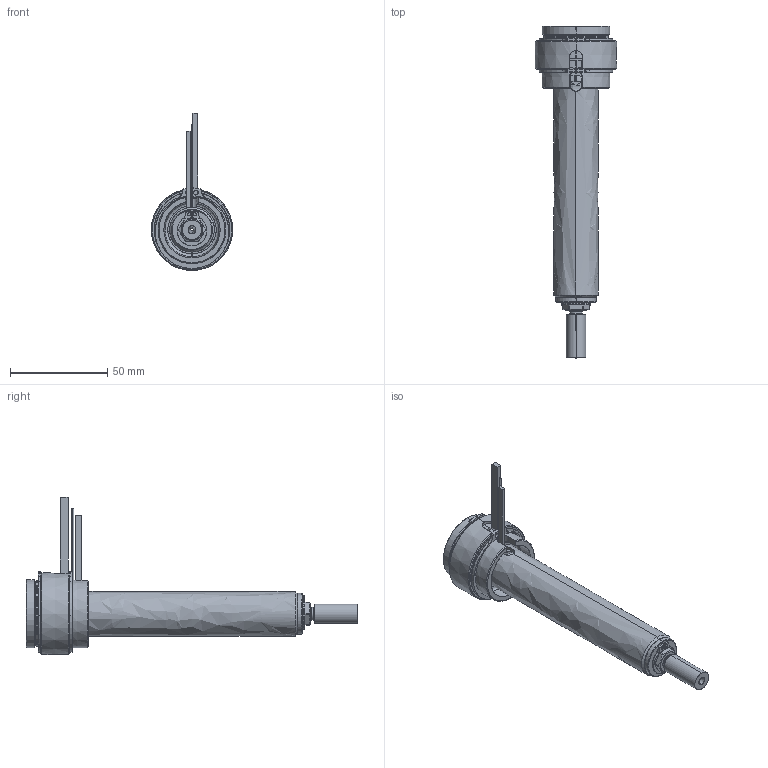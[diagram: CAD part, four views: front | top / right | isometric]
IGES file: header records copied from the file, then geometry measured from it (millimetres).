
Start section: SolidWorks IGES file using analytic representation for surfaces
Global section: file name: C:\Users\luca.EMPAD\Desktop\TEM\UGBE3503-S-A-P-3 [Ød-1.5 P-20 ØC-6.0].IGS; native system: SolidWorks 2012; preprocessor: SolidWorks 2012; author: luca; date: 120330.135711; units: millimetre
Bounding box: 42 x 171 x 80.9 mm (x, y, z)
Surface area: 38144.7 mm2 (no closed solid volume)
Topology: 0 solids, 0 shells, 189 faces, 3526 edges, 3526 vertices
Faces by surface type: revolution 121, bspline 68
